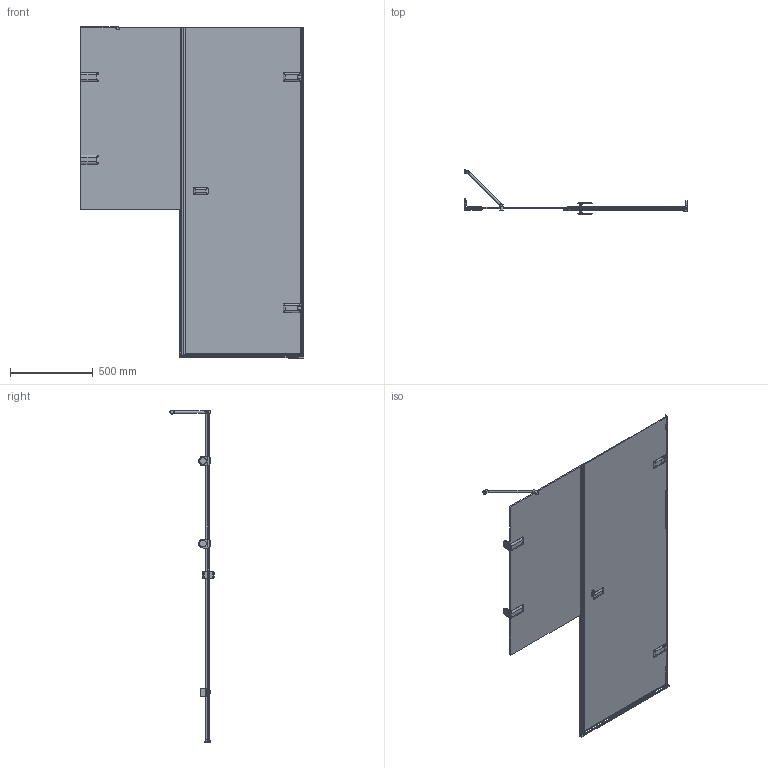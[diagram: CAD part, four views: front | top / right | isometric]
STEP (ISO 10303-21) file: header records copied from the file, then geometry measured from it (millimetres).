
FILE_DESCRIPTION(/* description */ (''),/* implementation_level */ '2;1');
FILE_NAME(/* name */ 'E:\Работа\Сергей\Душевые кабинки\! Работа\! 1\TREND DOOR GK-862BLTWO\TREND DOOR GK-862BLTWO правая модель\TREND DOOR GK-862BLTWO ПРАВАЯ-3D.stp',/* time_stamp */ '2017-08-23T21:16:57+03:00',/* author */ ('PC'),/* organization */ (''),/* preprocessor_version */ 'ST-DEVELOPER v15.2',/* originating_system */ 'Autodesk Inventor 2014',/* authorisation */ '');
FILE_SCHEMA (('AUTOMOTIVE_DESIGN { 1 0 10303 214 3 1 1 }'));
Length unit declared in the file: millimetre
Products named in the file (1): TREND DOOR GK-862BLTWO ПРАВАЯ-
3D
Bounding box: 1350 x 268.74 x 2009.49 mm (x, y, z)
Volume: 15208045.3 mm3; surface area: 4781586.5 mm2
Topology: 6 solids, 6 shells, 914 faces, 2399 edges, 1460 vertices
Faces by surface type: plane 562, cylinder 241, bspline 64, torus 36, sphere 9, cone 2
Full cylindrical faces by diameter (mm): 4.5 x3, 12 x2, 15 x1, 20 x2, 26 x1, 40 x2
Entity records: 31108 total; most frequent: CARTESIAN_POINT 7925, ORIENTED_EDGE 4674, DIRECTION 4529, EDGE_CURVE 2336, LINE 1615, VECTOR 1615, AXIS2_PLACEMENT_3D 1457, VERTEX_POINT 1455
